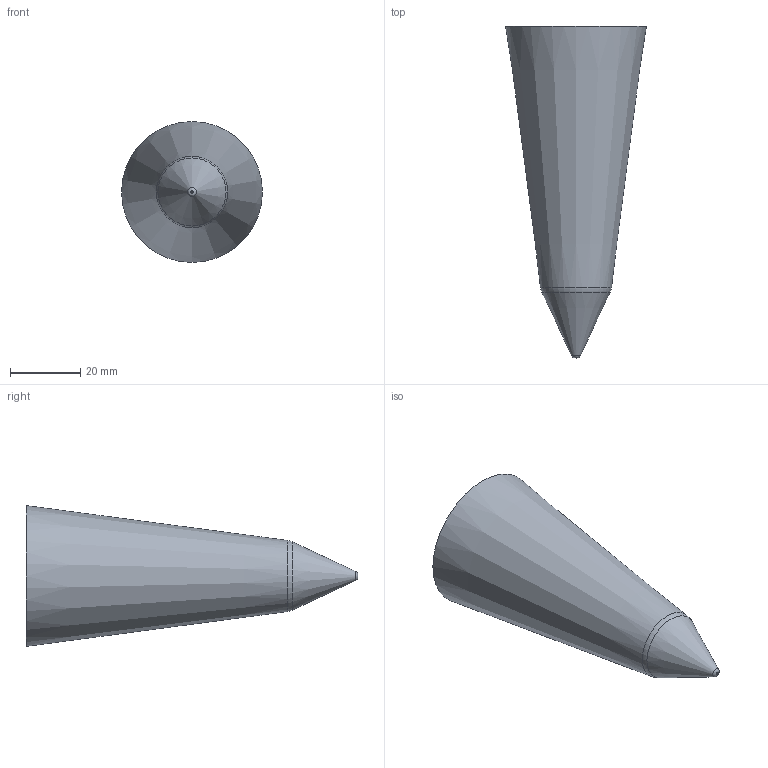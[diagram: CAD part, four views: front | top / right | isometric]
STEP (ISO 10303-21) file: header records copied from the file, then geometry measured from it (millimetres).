
FILE_DESCRIPTION(/* description */ (''),/* implementation_level */ '2;1');
FILE_NAME(/* name */ 'C:\Users\Banwz\Desktop\ВИМ\Агронабор\Агронабор Релиз\Насадки\Бур\Бур.stp',/* time_stamp */ '2023-05-04T00:14:50+03:00',/* author */ ('Banwz'),/* organization */ (''),/* preprocessor_version */ 'ST-DEVELOPER v18.1',/* originating_system */ 'Autodesk Inventor 2021',/* authorisation */ '');
FILE_SCHEMA (('AUTOMOTIVE_DESIGN { 1 0 10303 214 3 1 1 }'));
Length unit declared in the file: millimetre
Products named in the file (1): Бур
Bounding box: 40 x 94.3 x 40 mm (x, y, z)
Volume: 57170.1 mm3; surface area: 9203.4 mm2
Topology: 1 solids, 1 shells, 8 faces, 12 edges, 7 vertices
Faces by surface type: plane 3, cone 2, cylinder 1, bspline 1, torus 1
Full cylindrical faces by diameter (mm): 2.5 x1
Entity records: 244 total; most frequent: CARTESIAN_POINT 54, DIRECTION 37, ORIENTED_EDGE 24, AXIS2_PLACEMENT_3D 17, EDGE_CURVE 12, EDGE_LOOP 9, CIRCLE 9, FACE_OUTER_BOUND 8
